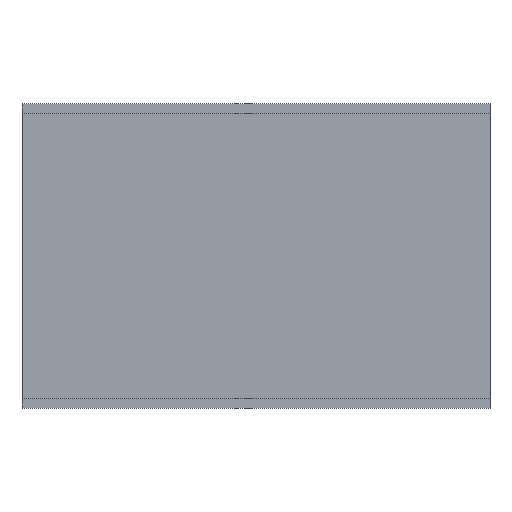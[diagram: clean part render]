
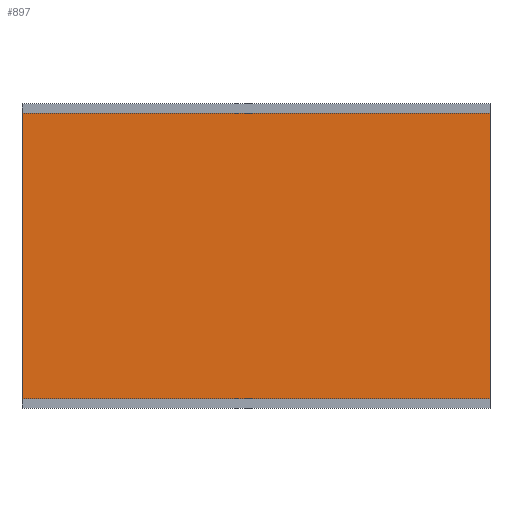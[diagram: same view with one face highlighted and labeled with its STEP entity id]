
A CAD part, front view. The second image highlights one B-rep face of the part: STEP entity #897.
In plain terms, the highlighted planar face has unit normal (0, -1, 0).
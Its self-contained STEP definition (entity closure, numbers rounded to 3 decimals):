
#2 = DIRECTION ( 'NONE',  ( -1., 0., 0. ) ) ;
#33 = VECTOR ( 'NONE', #1520, 1000. ) ;
#99 = PLANE ( 'NONE',  #870 ) ;
#104 = CARTESIAN_POINT ( 'NONE',  ( 1000., -68., -304.8 ) ) ;
#230 = DIRECTION ( 'NONE',  ( 0., 0., 1. ) ) ;
#241 = ORIENTED_EDGE ( 'NONE', *, *, #1478, .F. ) ;
#261 = VERTEX_POINT ( 'NONE', #1214 ) ;
#311 = ORIENTED_EDGE ( 'NONE', *, *, #554, .T. ) ;
#461 = DIRECTION ( 'NONE',  ( -1., 0., 0. ) ) ;
#468 = VERTEX_POINT ( 'NONE', #577 ) ;
#554 = EDGE_CURVE ( 'NONE', #468, #1425, #1558, .T. ) ;
#577 = CARTESIAN_POINT ( 'NONE',  ( 0., -68., 304.8 ) ) ;
#604 = CARTESIAN_POINT ( 'NONE',  ( 0., -68., -304.8 ) ) ;
#611 = DIRECTION ( 'NONE',  ( 0., 1., 0. ) ) ;
#637 = CARTESIAN_POINT ( 'NONE',  ( 1000., -68., 304.8 ) ) ;
#749 = ORIENTED_EDGE ( 'NONE', *, *, #1109, .T. ) ;
#754 = VECTOR ( 'NONE', #2, 1000. ) ;
#836 = EDGE_CURVE ( 'NONE', #261, #1019, #1202, .T. ) ;
#844 = VECTOR ( 'NONE', #1096, 1000. ) ;
#870 = AXIS2_PLACEMENT_3D ( 'NONE', #104, #611, #230 ) ;
#897 = ADVANCED_FACE ( 'NONE', ( #964 ), #99, .F. ) ;
#901 = VECTOR ( 'NONE', #461, 1000. ) ;
#911 = CARTESIAN_POINT ( 'NONE',  ( 1000., -68., -304.8 ) ) ;
#964 = FACE_OUTER_BOUND ( 'NONE', #1664, .T. ) ;
#1019 = VERTEX_POINT ( 'NONE', #911 ) ;
#1096 = DIRECTION ( 'NONE',  ( 0., 0., -1. ) ) ;
#1109 = EDGE_CURVE ( 'NONE', #261, #468, #1328, .T. ) ;
#1123 = LINE ( 'NONE', #1486, #901 ) ;
#1202 = LINE ( 'NONE', #1346, #844 ) ;
#1214 = CARTESIAN_POINT ( 'NONE',  ( 1000., -68., 304.8 ) ) ;
#1287 = ORIENTED_EDGE ( 'NONE', *, *, #836, .F. ) ;
#1328 = LINE ( 'NONE', #637, #754 ) ;
#1346 = CARTESIAN_POINT ( 'NONE',  ( 1000., -68., -304.8 ) ) ;
#1369 = CARTESIAN_POINT ( 'NONE',  ( 0., -68., -304.8 ) ) ;
#1425 = VERTEX_POINT ( 'NONE', #1369 ) ;
#1478 = EDGE_CURVE ( 'NONE', #1019, #1425, #1123, .T. ) ;
#1486 = CARTESIAN_POINT ( 'NONE',  ( 1000., -68., -304.8 ) ) ;
#1520 = DIRECTION ( 'NONE',  ( 0., 0., -1. ) ) ;
#1558 = LINE ( 'NONE', #604, #33 ) ;
#1664 = EDGE_LOOP ( 'NONE', ( #311, #241, #1287, #749 ) ) ;
